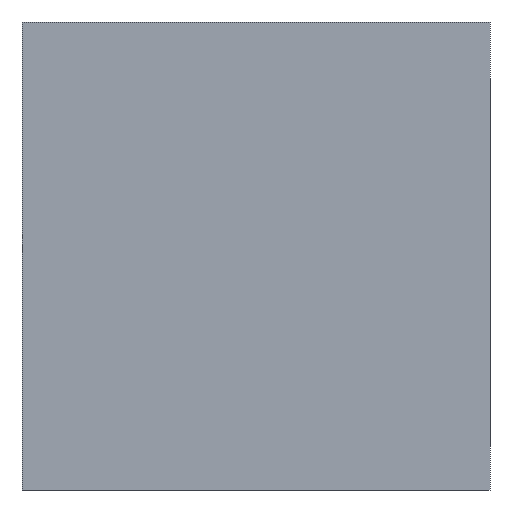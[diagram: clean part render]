
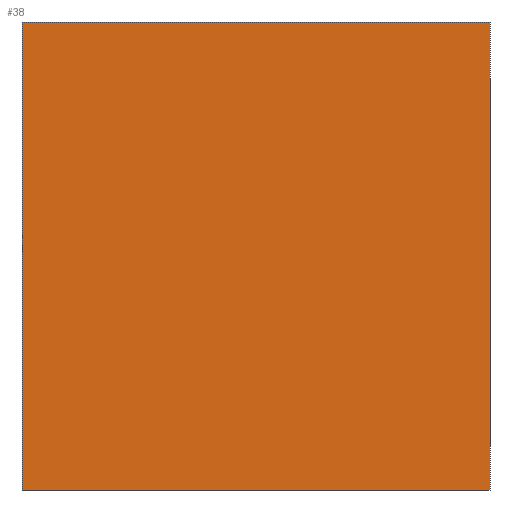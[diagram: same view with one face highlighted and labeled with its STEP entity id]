
A CAD part, left-side view. The second image highlights one B-rep face of the part: STEP entity #38.
In plain terms, the highlighted planar face has unit normal (-1, 0, 0).
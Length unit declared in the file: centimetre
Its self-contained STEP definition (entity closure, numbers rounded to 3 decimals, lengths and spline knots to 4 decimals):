
#7 = DIRECTION ( 'NONE',  ( 0., 0., -1. ) ) ;
#18 = PLANE ( 'NONE',  #306 ) ;
#26 = DIRECTION ( 'NONE',  ( 0., 0., -1. ) ) ;
#38 = ADVANCED_FACE ( 'NONE', ( #56 ), #18, .F. ) ;
#44 = DIRECTION ( 'NONE',  ( 0., -1., 0. ) ) ;
#45 = VERTEX_POINT ( 'NONE', #142 ) ;
#46 = CARTESIAN_POINT ( 'NONE',  ( 0., 1000., 1000. ) ) ;
#56 = FACE_OUTER_BOUND ( 'NONE', #376, .T. ) ;
#71 = VECTOR ( 'NONE', #7, 100. ) ;
#78 = VERTEX_POINT ( 'NONE', #277 ) ;
#106 = LINE ( 'NONE', #420, #343 ) ;
#111 = CARTESIAN_POINT ( 'NONE',  ( 0., 0., 1000. ) ) ;
#122 = DIRECTION ( 'NONE',  ( 1., 0., 0. ) ) ;
#142 = CARTESIAN_POINT ( 'NONE',  ( 0., 1000., 0. ) ) ;
#146 = LINE ( 'NONE', #46, #199 ) ;
#149 = ORIENTED_EDGE ( 'NONE', *, *, #405, .T. ) ;
#175 = CARTESIAN_POINT ( 'NONE',  ( 0., 1000., 1000. ) ) ;
#176 = DIRECTION ( 'NONE',  ( 0., 0., -1. ) ) ;
#199 = VECTOR ( 'NONE', #44, 100. ) ;
#205 = ORIENTED_EDGE ( 'NONE', *, *, #390, .F. ) ;
#210 = LINE ( 'NONE', #412, #265 ) ;
#259 = CARTESIAN_POINT ( 'NONE',  ( 0., 1000., 1000. ) ) ;
#265 = VECTOR ( 'NONE', #176, 100. ) ;
#271 = ORIENTED_EDGE ( 'NONE', *, *, #346, .F. ) ;
#274 = DIRECTION ( 'NONE',  ( 0., -1., 0. ) ) ;
#277 = CARTESIAN_POINT ( 'NONE',  ( 0., 0., 0. ) ) ;
#306 = AXIS2_PLACEMENT_3D ( 'NONE', #259, #122, #26 ) ;
#309 = ORIENTED_EDGE ( 'NONE', *, *, #330, .T. ) ;
#314 = CARTESIAN_POINT ( 'NONE',  ( 0., 1000., 1000. ) ) ;
#319 = LINE ( 'NONE', #314, #71 ) ;
#330 = EDGE_CURVE ( 'NONE', #45, #78, #106, .T. ) ;
#343 = VECTOR ( 'NONE', #274, 100. ) ;
#346 = EDGE_CURVE ( 'NONE', #363, #426, #146, .T. ) ;
#363 = VERTEX_POINT ( 'NONE', #175 ) ;
#376 = EDGE_LOOP ( 'NONE', ( #309, #205, #271, #149 ) ) ;
#390 = EDGE_CURVE ( 'NONE', #426, #78, #210, .T. ) ;
#405 = EDGE_CURVE ( 'NONE', #363, #45, #319, .T. ) ;
#412 = CARTESIAN_POINT ( 'NONE',  ( 0., 0., 1000. ) ) ;
#420 = CARTESIAN_POINT ( 'NONE',  ( 0., 1000., 0. ) ) ;
#426 = VERTEX_POINT ( 'NONE', #111 ) ;
